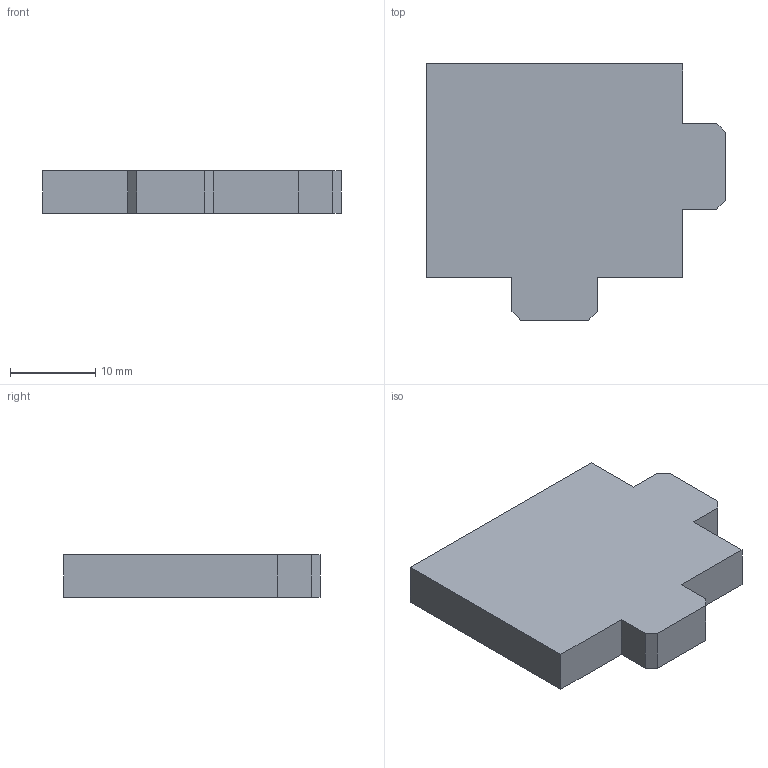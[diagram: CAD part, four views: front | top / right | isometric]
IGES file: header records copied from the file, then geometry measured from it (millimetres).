
Start section: SolidWorks IGES file using analytic representation for surfaces
Global section: file name: C:\Users\fablab-info\Desktop\Miroir cylindro-parabolique\IGS 3D\angle.IGS; native system: SolidWorks 2017; preprocessor: SolidWorks 2017; author: fablab-info; date: 190712.155117; units: millimetre
Bounding box: 35 x 30 x 5 mm (x, y, z)
Surface area: 2334.3 mm2 (no closed solid volume)
Topology: 0 solids, 0 shells, 18 faces, 96 edges, 96 vertices
Faces by surface type: bspline 18
